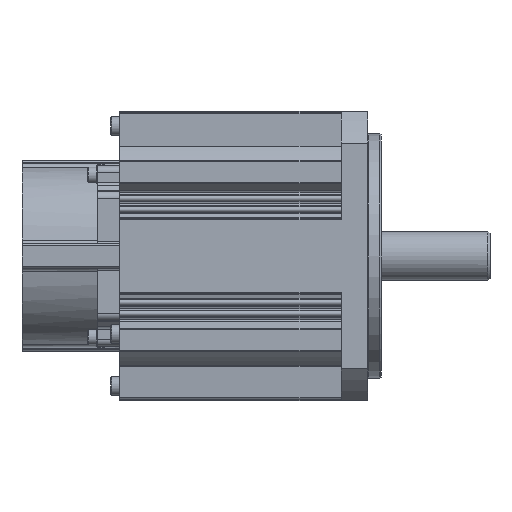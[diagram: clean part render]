
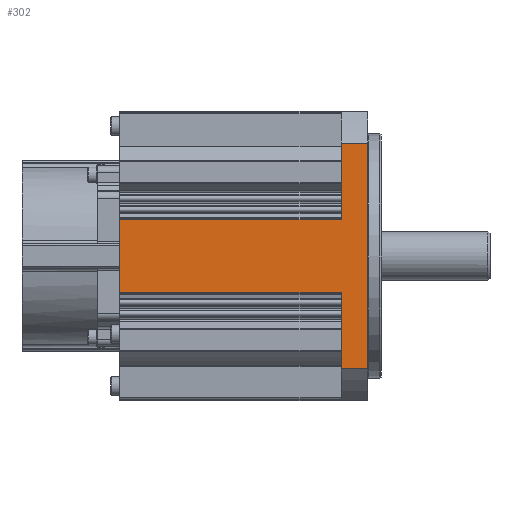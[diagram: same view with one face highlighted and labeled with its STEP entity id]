
A CAD part, front view. The second image highlights one B-rep face of the part: STEP entity #302.
In plain terms, the highlighted planar face has unit normal (0, -1, 0).
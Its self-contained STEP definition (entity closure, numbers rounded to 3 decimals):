
#302 = ADVANCED_FACE( '', ( #1114 ), #1115, .T. );
#1114 = FACE_OUTER_BOUND( '', #2333, .T. );
#1115 = PLANE( '', #2334 );
#2333 = EDGE_LOOP( '', ( #5109, #5110, #5111, #5112, #5113, #5114, #5115, #5116 ) );
#2334 = AXIS2_PLACEMENT_3D( '', #5117, #5118, #5119 );
#5109 = ORIENTED_EDGE( '', *, *, #7922, .F. );
#5110 = ORIENTED_EDGE( '', *, *, #8173, .T. );
#5111 = ORIENTED_EDGE( '', *, *, #8135, .F. );
#5112 = ORIENTED_EDGE( '', *, *, #8174, .F. );
#5113 = ORIENTED_EDGE( '', *, *, #7586, .F. );
#5114 = ORIENTED_EDGE( '', *, *, #7594, .T. );
#5115 = ORIENTED_EDGE( '', *, *, #8124, .T. );
#5116 = ORIENTED_EDGE( '', *, *, #7592, .F. );
#5117 = CARTESIAN_POINT( '', ( -111.5, -65., 50.806 ) );
#5118 = DIRECTION( '', ( 0., -1., 0. ) );
#5119 = DIRECTION( '', ( 0., 0., -1. ) );
#7586 = EDGE_CURVE( '', #9096, #9098, #9099, .T. );
#7592 = EDGE_CURVE( '', #9108, #9103, #9110, .T. );
#7594 = EDGE_CURVE( '', #9096, #9112, #9114, .T. );
#7922 = EDGE_CURVE( '', #9668, #9108, #9669, .T. );
#8124 = EDGE_CURVE( '', #9112, #9103, #10000, .T. );
#8135 = EDGE_CURVE( '', #10019, #10021, #10022, .T. );
#8173 = EDGE_CURVE( '', #9668, #10021, #10094, .T. );
#8174 = EDGE_CURVE( '', #9098, #10019, #10095, .T. );
#9096 = VERTEX_POINT( '', #11742 );
#9098 = VERTEX_POINT( '', #11744 );
#9099 = LINE( '', #11745, #11746 );
#9103 = VERTEX_POINT( '', #11750 );
#9108 = VERTEX_POINT( '', #11756 );
#9110 = LINE( '', #11758, #11759 );
#9112 = VERTEX_POINT( '', #11761 );
#9114 = LINE( '', #11763, #11764 );
#9668 = VERTEX_POINT( '', #12502 );
#9669 = LINE( '', #12503, #12504 );
#10000 = LINE( '', #12960, #12961 );
#10019 = VERTEX_POINT( '', #12981 );
#10021 = VERTEX_POINT( '', #12983 );
#10022 = LINE( '', #12984, #12985 );
#10094 = LINE( '', #13084, #13085 );
#10095 = LINE( '', #13086, #13087 );
#11742 = CARTESIAN_POINT( '', ( -12., -65., 16.424 ) );
#11744 = CARTESIAN_POINT( '', ( -12., -65., 50.806 ) );
#11745 = CARTESIAN_POINT( '', ( -12., -65., 50.806 ) );
#11746 = VECTOR( '', #14732, 1000. );
#11750 = CARTESIAN_POINT( '', ( -111.5, -65., -16.424 ) );
#11756 = CARTESIAN_POINT( '', ( -12., -65., -16.424 ) );
#11758 = CARTESIAN_POINT( '', ( -12., -65., -16.424 ) );
#11759 = VECTOR( '', #14746, 1000. );
#11761 = CARTESIAN_POINT( '', ( -111.5, -65., 16.424 ) );
#11763 = CARTESIAN_POINT( '', ( -12., -65., 16.424 ) );
#11764 = VECTOR( '', #14750, 1000. );
#12502 = CARTESIAN_POINT( '', ( -12., -65., -50.806 ) );
#12503 = CARTESIAN_POINT( '', ( -12., -65., 50.806 ) );
#12504 = VECTOR( '', #15364, 1000. );
#12960 = CARTESIAN_POINT( '', ( -111.5, -65., 50.806 ) );
#12961 = VECTOR( '', #15718, 1000. );
#12981 = CARTESIAN_POINT( '', ( 0., -65., 50.806 ) );
#12983 = CARTESIAN_POINT( '', ( 0., -65., -50.806 ) );
#12984 = CARTESIAN_POINT( '', ( 0., -65., 50.806 ) );
#12985 = VECTOR( '', #15747, 1000. );
#13084 = CARTESIAN_POINT( '', ( -111.5, -65., -50.806 ) );
#13085 = VECTOR( '', #15805, 1000. );
#13086 = CARTESIAN_POINT( '', ( -111.5, -65., 50.806 ) );
#13087 = VECTOR( '', #15806, 1000. );
#14732 = DIRECTION( '', ( 0., 0., 1. ) );
#14746 = DIRECTION( '', ( -1., 0., 0. ) );
#14750 = DIRECTION( '', ( -1., 0., 0. ) );
#15364 = DIRECTION( '', ( 0., 0., 1. ) );
#15718 = DIRECTION( '', ( 0., 0., -1. ) );
#15747 = DIRECTION( '', ( 0., 0., -1. ) );
#15805 = DIRECTION( '', ( 1., 0., 0. ) );
#15806 = DIRECTION( '', ( 1., 0., 0. ) );
